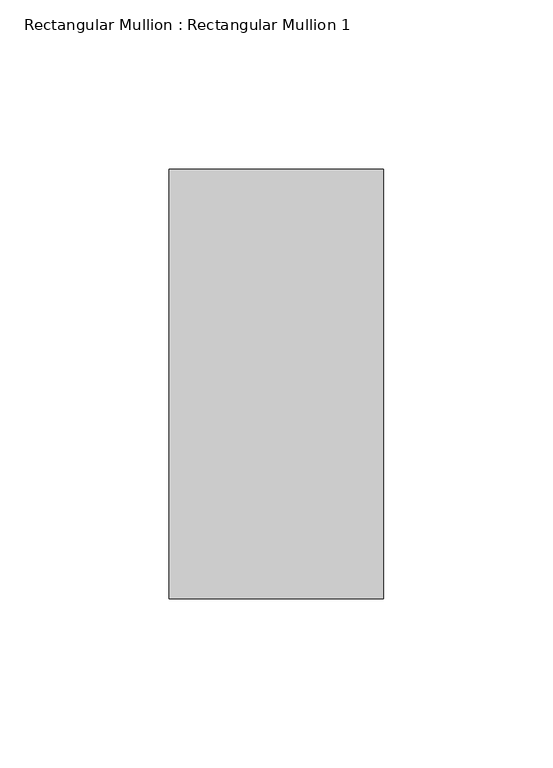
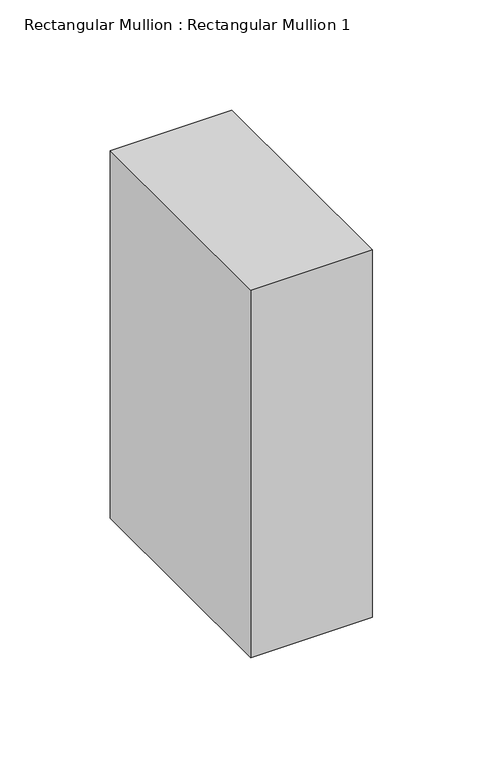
"""IFC4 building model written with IfcOpenShell, lengths in millimetres: member geometry, Rectangular Mullion : Rectangular Mullion 1."""

from ifc_helpers import new_model, si_unit, frame, origin, place, context, project, spatial, polyline, outline, extrude, source, transform, mapped, element, save


def rectangular_mullion_rectangular_mullion_1_92514b8e(model_context):
    return source(origin(), model_context, "Body", "SweptSolid", [
        extrude(outline(polyline([(31.75, 63.5), (31.75, -63.5), (-31.75, -63.5), (-31.75, 63.5), (31.75, 63.5)])), frame((0.0, 0.0, -203.0604781), z_axis=(0.0, 0.0, 1.0), x_axis=(1.0, 0.0, 0.0)), (0.0, 0.0, 1.0), 203.0604781),
    ])


if __name__ == "__main__":
    model = new_model("IFC4")
    model_context = context("Model", 3, world=origin())
    ifc_project = project(units=[si_unit("LENGTHUNIT", "METRE", prefix="MILLI")], contexts=[model_context])
    site = spatial("IfcSite", under=ifc_project)
    building = spatial("IfcBuilding", under=site)
    placement = place(None, origin())
    rectangular_mullion_rectangular_mullion_1_shape = rectangular_mullion_rectangular_mullion_1_92514b8e(model_context)
    element("IfcMember", 1, ObjectType="Rectangular Mullion : Rectangular Mullion 1", at=placement, inside=building, context=model_context, shape_type="MappedRepresentation", body=[
        mapped(rectangular_mullion_rectangular_mullion_1_shape, transform((0.0, 0.0, 0.0), x_axis=(1.0, 0.0, 0.0), y_axis=(0.0, 1.0, 0.0), z_axis=(0.0, 0.0, 1.0))),
    ])
    save(model, "model.ifc")
